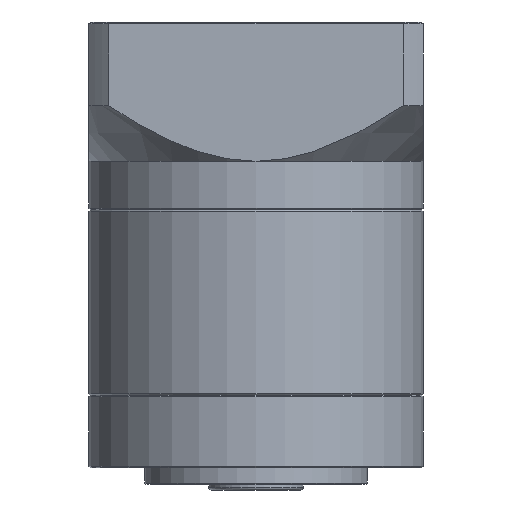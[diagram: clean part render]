
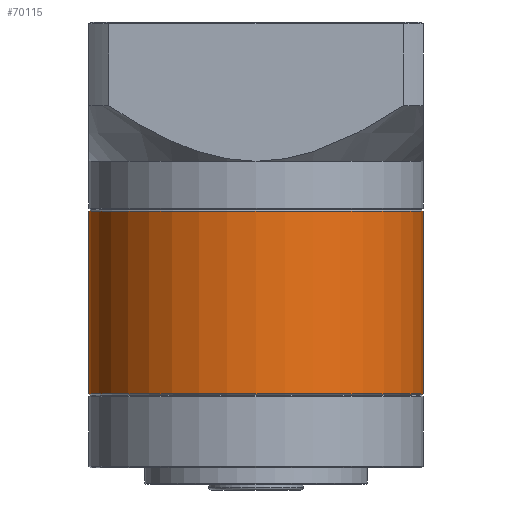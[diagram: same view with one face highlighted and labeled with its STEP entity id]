
A CAD part, front view. The second image highlights one B-rep face of the part: STEP entity #70115.
In plain terms, the highlighted cylindrical face has radius 30 mm (diameter 60 mm), a partial arc.
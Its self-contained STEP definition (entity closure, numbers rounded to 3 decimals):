
#1164 = EDGE_LOOP ( 'NONE', ( #71606, #48519, #21914, #51563 ) ) ;
#4352 = DIRECTION ( 'NONE',  ( 0., 0., -1. ) ) ;
#5321 = AXIS2_PLACEMENT_3D ( 'NONE', #51301, #4352, #59173 ) ;
#9091 = DIRECTION ( 'NONE',  ( 0., 0., 1. ) ) ;
#14909 = AXIS2_PLACEMENT_3D ( 'NONE', #56012, #9091, #63933 ) ;
#15124 = DIRECTION ( 'NONE',  ( 0., 0., -1. ) ) ;
#17467 = VERTEX_POINT ( 'NONE', #94494 ) ;
#18108 = VERTEX_POINT ( 'NONE', #72503 ) ;
#21914 = ORIENTED_EDGE ( 'NONE', *, *, #86898, .T. ) ;
#22417 = CARTESIAN_POINT ( 'NONE',  ( -104.716, 10.431, -31.037 ) ) ;
#24899 = EDGE_CURVE ( 'NONE', #17467, #61032, #52688, .T. ) ;
#27735 = CIRCLE ( 'NONE', #5321, 30. ) ;
#30242 = LINE ( 'NONE', #35127, #71995 ) ;
#31783 = VECTOR ( 'NONE', #15124, 1000. ) ;
#35127 = CARTESIAN_POINT ( 'NONE',  ( -104.716, 10.431, 2.013 ) ) ;
#36089 = EDGE_CURVE ( 'NONE', #59964, #61032, #60593, .T. ) ;
#48519 = ORIENTED_EDGE ( 'NONE', *, *, #49141, .T. ) ;
#49141 = EDGE_CURVE ( 'NONE', #17467, #18108, #27735, .T. ) ;
#51301 = CARTESIAN_POINT ( 'NONE',  ( -74.716, 10.431, 1.763 ) ) ;
#51563 = ORIENTED_EDGE ( 'NONE', *, *, #36089, .T. ) ;
#52688 = LINE ( 'NONE', #69952, #31783 ) ;
#56012 = CARTESIAN_POINT ( 'NONE',  ( -74.716, 10.431, -31.037 ) ) ;
#59173 = DIRECTION ( 'NONE',  ( 1., 0., 0. ) ) ;
#59964 = VERTEX_POINT ( 'NONE', #22417 ) ;
#60593 = CIRCLE ( 'NONE', #14909, 30. ) ;
#61032 = VERTEX_POINT ( 'NONE', #74849 ) ;
#63933 = DIRECTION ( 'NONE',  ( 1., 0., 0. ) ) ;
#67785 = AXIS2_PLACEMENT_3D ( 'NONE', #70474, #93682, #78535 ) ;
#69904 = CYLINDRICAL_SURFACE ( 'NONE', #67785, 30. ) ;
#69952 = CARTESIAN_POINT ( 'NONE',  ( -44.716, 10.431, 2.013 ) ) ;
#70115 = ADVANCED_FACE ( 'NONE', ( #79538 ), #69904, .T. ) ;
#70474 = CARTESIAN_POINT ( 'NONE',  ( -74.716, 10.431, 2.013 ) ) ;
#71606 = ORIENTED_EDGE ( 'NONE', *, *, #24899, .F. ) ;
#71995 = VECTOR ( 'NONE', #89275, 1000. ) ;
#72503 = CARTESIAN_POINT ( 'NONE',  ( -104.716, 10.431, 1.763 ) ) ;
#74849 = CARTESIAN_POINT ( 'NONE',  ( -44.716, 10.431, -31.037 ) ) ;
#78535 = DIRECTION ( 'NONE',  ( -1., 0., 0. ) ) ;
#79538 = FACE_OUTER_BOUND ( 'NONE', #1164, .T. ) ;
#86898 = EDGE_CURVE ( 'NONE', #18108, #59964, #30242, .T. ) ;
#89275 = DIRECTION ( 'NONE',  ( 0., 0., -1. ) ) ;
#93682 = DIRECTION ( 'NONE',  ( 0., 0., -1. ) ) ;
#94494 = CARTESIAN_POINT ( 'NONE',  ( -44.716, 10.431, 1.763 ) ) ;
